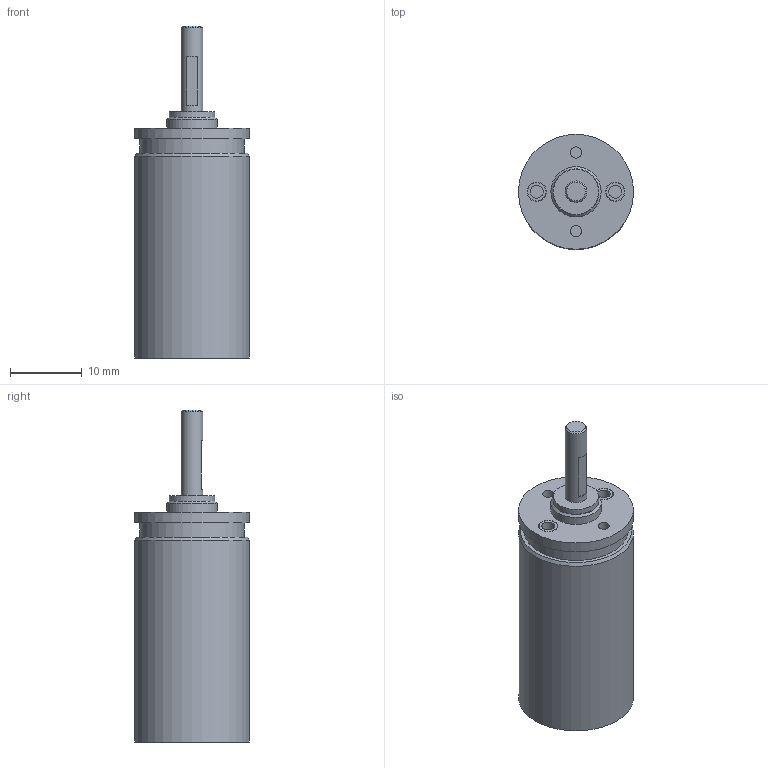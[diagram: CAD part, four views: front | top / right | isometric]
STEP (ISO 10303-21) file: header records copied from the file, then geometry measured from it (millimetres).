
FILE_DESCRIPTION(/* description */ (''),/* implementation_level */ '2;1');
FILE_NAME(/* name */ '15-5_4.stp',/* time_stamp */ '2016-08-24T14:13:06+02:00',/* author */ ('DR. FRITZ FAULHABER GmbH & Co. KG'),/* organization */ ('DR. FRITZ FAULHABER GmbH & Co. KG'),/* preprocessor_version */ 'ST-DEVELOPER v16',/* originating_system */ 'SIEMENS PLM Software NX 10.0',/* authorisation */ '');
FILE_SCHEMA (('AUTOMOTIVE_DESIGN { 1 0 10303 214 3 1 1 1 }'));
Length unit declared in the file: millimetre
Products named in the file (1): H00000510_A
Bounding box: 16 x 16 x 46.2 mm (x, y, z)
Volume: 4158.3 mm3; surface area: 2942.6 mm2
Topology: 1 solids, 1 shells, 41 faces, 64 edges, 42 vertices
Faces by surface type: plane 21, cylinder 17, cone 3
Full cylindrical faces by diameter (mm): 1.6 x2, 1.8 x2, 2.48 x1, 2.584 x2, 2.684 x2, 3 x1, 6 x1, 6.3 x1, 7 x1, 14.5 x1, 15 x1, 16 x2
Entity records: 856 total; most frequent: DIRECTION 166, CARTESIAN_POINT 126, ORIENTED_EDGE 86, AXIS2_PLACEMENT_3D 81, EDGE_LOOP 78, FACE_BOUND 69, EDGE_CURVE 43, ADVANCED_FACE 41
